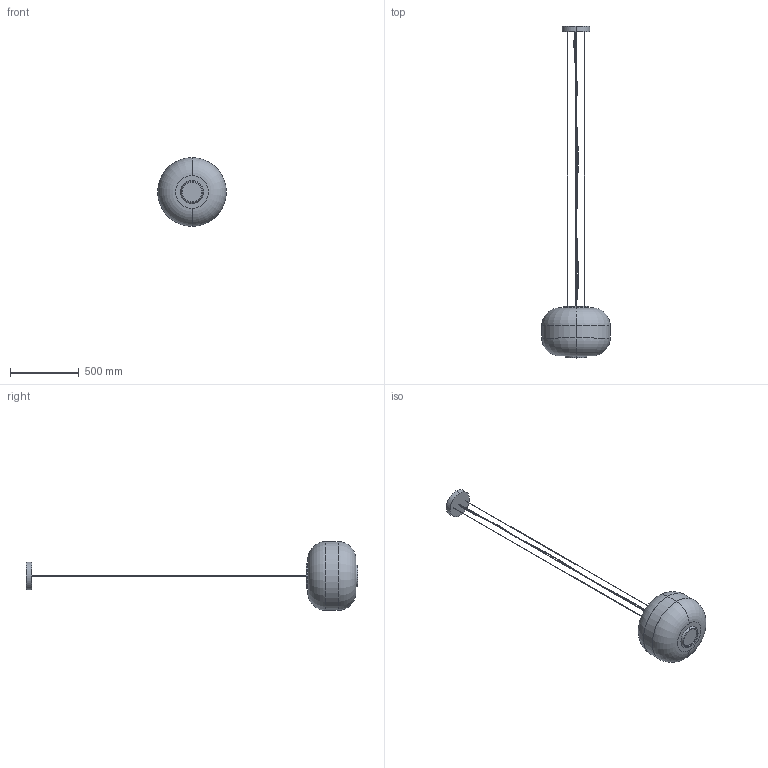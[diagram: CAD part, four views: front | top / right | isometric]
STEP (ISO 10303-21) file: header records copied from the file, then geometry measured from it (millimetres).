
FILE_DESCRIPTION (( 'STEP AP214' ), '1' );
FILE_NAME ('BYGOS_C1363.STEP', '2026-08-27T14:25:06', ( '' ), ( '' ), 'SwSTEP 2.0', 'SolidWorks 2023', '' );
FILE_SCHEMA (( 'AUTOMOTIVE_DESIGN' ));
Length unit declared in the file: millimetre
Products named in the file (1): BYGOS_C1363
Bounding box: 500 x 2415 x 500 mm (x, y, z)
Volume: 13257529.4 mm3; surface area: 1792231.5 mm2
Topology: 2 solids, 2 shells, 53 faces, 139 edges, 90 vertices
Faces by surface type: cylinder 28, plane 13, torus 8, bspline 2, cone 2
Entity records: 2502 total; most frequent: CARTESIAN_POINT 1156, ORIENTED_EDGE 278, DIRECTION 271, EDGE_CURVE 139, AXIS2_PLACEMENT_3D 119, VERTEX_POINT 90, EDGE_LOOP 67, CIRCLE 67
